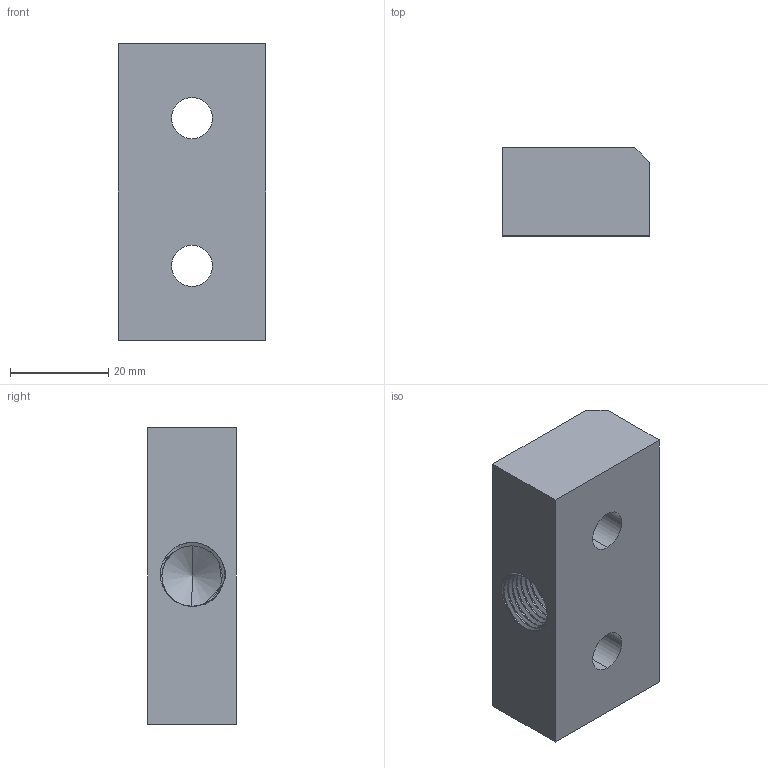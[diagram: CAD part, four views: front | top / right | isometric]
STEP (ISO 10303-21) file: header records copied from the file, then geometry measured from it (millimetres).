
FILE_DESCRIPTION (( 'STEP AP214' ), '1' );
FILE_NAME ('7976.STEP', '2026-08-18T06:28:54', ( '' ), ( '' ), 'SwSTEP 2.0', 'SolidWorks 2022', '' );
FILE_SCHEMA (( 'AUTOMOTIVE_DESIGN' ));
Length unit declared in the file: millimetre
Products named in the file (1): 7976
Bounding box: 29.9 x 17.92 x 60.22 mm (x, y, z)
Volume: 25320.5 mm3; surface area: 9258.9 mm2
Topology: 1 solids, 1 shells, 64 faces, 176 edges, 115 vertices
Faces by surface type: cylinder 46, plane 9, bspline 6, cone 3
Entity records: 5935 total; most frequent: CARTESIAN_POINT 4545, ORIENTED_EDGE 348, DIRECTION 214, EDGE_CURVE 174, VERTEX_POINT 115, AXIS2_PLACEMENT_3D 76, EDGE_LOOP 71, FACE_OUTER_BOUND 64
